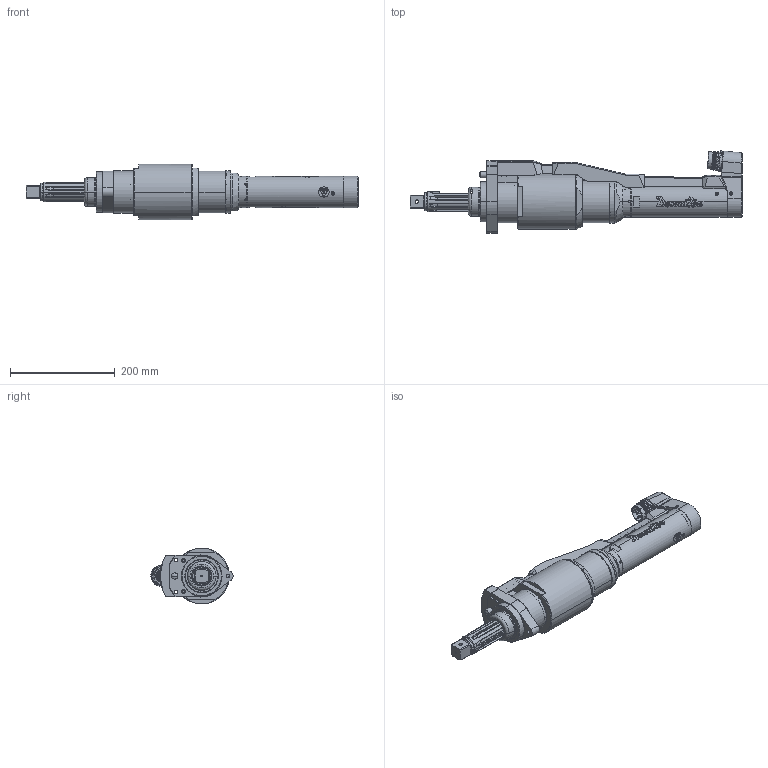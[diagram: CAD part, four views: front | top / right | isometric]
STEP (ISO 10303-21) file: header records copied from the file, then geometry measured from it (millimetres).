
FILE_DESCRIPTION((''),'2;1');
FILE_NAME('6151662170_DIM','2023-09-01T12:36:55',('S00000450'),(''),'CREO PARAMETRIC BY PTC INC, 2022414','CREO PARAMETRIC BY PTC INC, 2022414','');
FILE_SCHEMA(('CONFIG_CONTROL_DESIGN'));
Products named in the file (1): 6151662170_DIM
Bounding box: 633.14 x 156.88 x 106 mm (x, y, z)
Surface area: 503459.4 mm2 (no closed solid volume)
Topology: 0 solids, 425 shells, 3092 faces, 16841 edges, 14060 vertices
Faces by surface type: plane 1158, cylinder 827, extrusion 433, cone 321, torus 173, bspline 161, sphere 19
Entity records: 211233 total; most frequent: CARTESIAN_POINT 95142, ORIENTED_EDGE 22991, DIRECTION 18517, EDGE_CURVE 16816, VERTEX_POINT 14060, VECTOR 7723, LINE 7290, B_SPLINE_CURVE_WITH_KNOTS 7060
